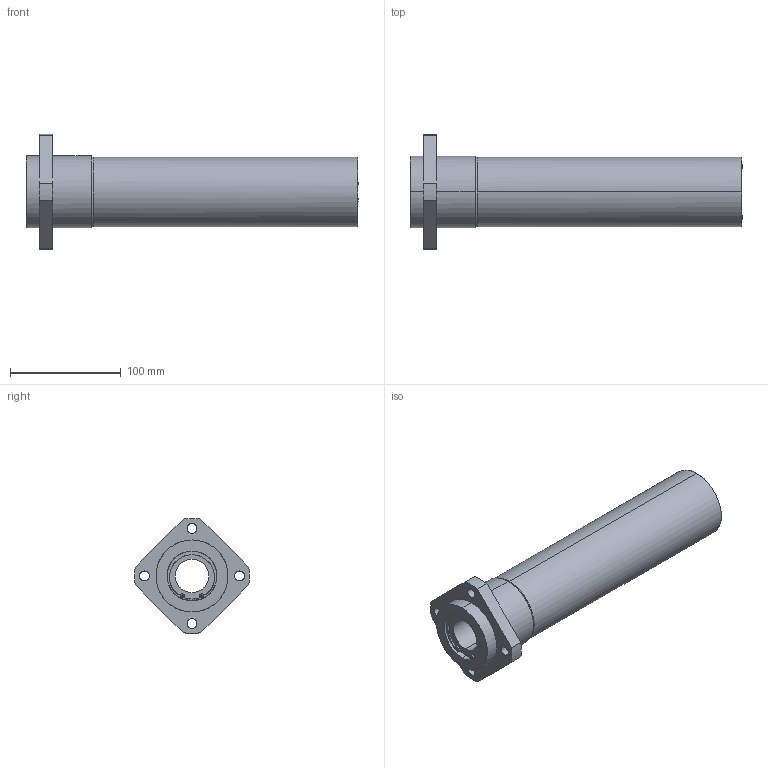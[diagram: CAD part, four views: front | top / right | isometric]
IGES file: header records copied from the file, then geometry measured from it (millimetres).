
Global section: file name: No Iges File Name specified; native system: AutoDesk Inventor R11.0; preprocessor: AutoDesk Inventor Iges Exporter R11.0; author: No Author specified; organization: No Organization specified; date: 20170922.140607; units: millimetre
Bounding box: 300 x 103.86 x 103.93 mm (x, y, z)
Surface area: 110847.6 mm2 (no closed solid volume)
Topology: 0 solids, 0 shells, 133 faces, 984 edges, 984 vertices
Faces by surface type: bspline 133
